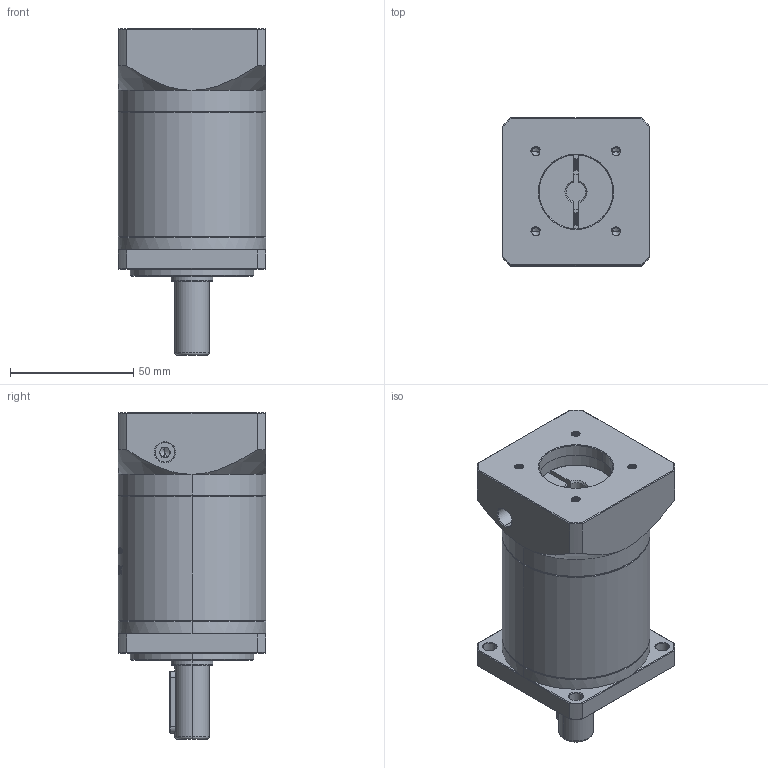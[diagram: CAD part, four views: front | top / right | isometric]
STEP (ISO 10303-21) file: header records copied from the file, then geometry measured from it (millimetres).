
FILE_DESCRIPTION (( 'STEP AP214' ), '1' );
FILE_NAME ('ZF060-D14-L2-P2-8-30-46-M4.step', '2023-08-16T04:24:02', ( '' ), ( '' ), 'SwSTEP 2.0', 'SolidWorks 2016', '' );
FILE_SCHEMA (( 'AUTOMOTIVE_DESIGN' ));
Length unit declared in the file: millimetre
Products named in the file (1): ZF060-D14-L2-P2-8-30-46-M4
Bounding box: 60 x 60 x 132.5 mm (x, y, z)
Volume: 277989.8 mm3; surface area: 47774.8 mm2
Topology: 6 solids, 6 shells, 1727 faces, 4679 edges, 3035 vertices
Faces by surface type: plane 794, bspline 354, cylinder 332, cone 227, torus 20
Entity records: 95934 total; most frequent: CARTESIAN_POINT 37618, ORIENTED_EDGE 9330, DIRECTION 6673, EDGE_CURVE 4665, VERTEX_POINT 3035, LINE 2365, VECTOR 2365, AXIS2_PLACEMENT_3D 2154
